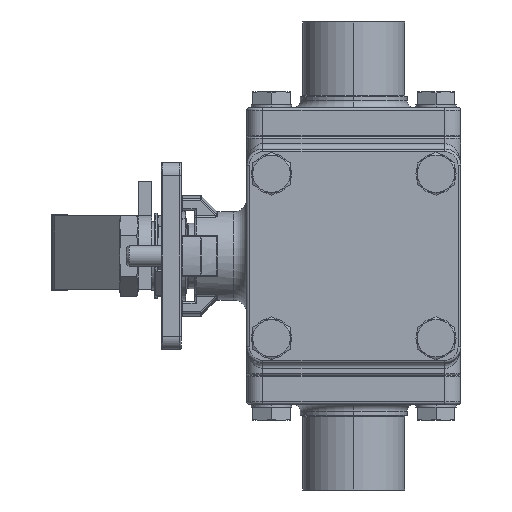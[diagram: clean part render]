
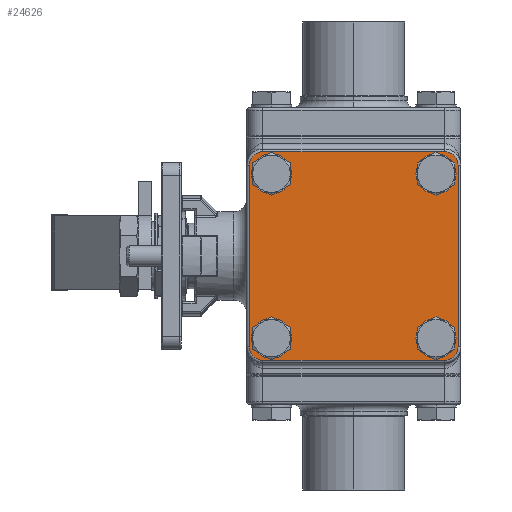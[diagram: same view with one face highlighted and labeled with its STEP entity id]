
A CAD part, left-side view. The second image highlights one B-rep face of the part: STEP entity #24626.
In plain terms, the highlighted planar face has unit normal (-1, 0, 0) as drawn and (0, 0, 1) by its records, which use the part's own axes.
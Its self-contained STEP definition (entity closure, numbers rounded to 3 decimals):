
#541 = ORIENTED_EDGE ( 'NONE', *, *, #13765, .T. ) ;
#645 = CARTESIAN_POINT ( 'NONE',  ( -30.759, 30.759, 7. ) ) ;
#659 = CIRCLE ( 'NONE', #28788, 5. ) ;
#718 = DIRECTION ( 'NONE',  ( 0., 1., 0. ) ) ;
#830 = EDGE_CURVE ( 'NONE', #17340, #6699, #3115, .T. ) ;
#1560 = DIRECTION ( 'NONE',  ( 0., 0., 1. ) ) ;
#1776 = CIRCLE ( 'NONE', #3183, 5.25 ) ;
#1832 = VECTOR ( 'NONE', #16577, 1000. ) ;
#1946 = AXIS2_PLACEMENT_3D ( 'NONE', #8028, #28888, #16011 ) ;
#2003 = EDGE_LOOP ( 'NONE', ( #11485, #30275 ) ) ;
#2096 = DIRECTION ( 'NONE',  ( 1., 0., 0. ) ) ;
#2162 = DIRECTION ( 'NONE',  ( 1., 0., 0. ) ) ;
#2630 = CIRCLE ( 'NONE', #3817, 5.25 ) ;
#2667 = ORIENTED_EDGE ( 'NONE', *, *, #20340, .F. ) ;
#2810 = EDGE_CURVE ( 'NONE', #23920, #23760, #11150, .T. ) ;
#2923 = VERTEX_POINT ( 'NONE', #26236 ) ;
#3042 = EDGE_CURVE ( 'NONE', #31790, #25386, #9510, .T. ) ;
#3115 = CIRCLE ( 'NONE', #6126, 5.25 ) ;
#3183 = AXIS2_PLACEMENT_3D ( 'NONE', #7492, #27701, #2096 ) ;
#3467 = DIRECTION ( 'NONE',  ( 0., 0., 1. ) ) ;
#3560 = CARTESIAN_POINT ( 'NONE',  ( -30.759, -30.759, 7. ) ) ;
#3817 = AXIS2_PLACEMENT_3D ( 'NONE', #32228, #3467, #26941 ) ;
#3825 = CARTESIAN_POINT ( 'NONE',  ( -39., -34., 7. ) ) ;
#4316 = FACE_BOUND ( 'NONE', #11940, .T. ) ;
#4375 = DIRECTION ( 'NONE',  ( 1., 0., 0. ) ) ;
#4439 = CARTESIAN_POINT ( 'NONE',  ( 30.759, 30.759, 7. ) ) ;
#5648 = LINE ( 'NONE', #8475, #19746 ) ;
#5837 = CARTESIAN_POINT ( 'NONE',  ( 34., -39., 7. ) ) ;
#6082 = EDGE_CURVE ( 'NONE', #22704, #10831, #11710, .T. ) ;
#6126 = AXIS2_PLACEMENT_3D ( 'NONE', #10149, #28202, #15303 ) ;
#6512 = CARTESIAN_POINT ( 'NONE',  ( -25.509, -30.759, 7. ) ) ;
#6675 = CARTESIAN_POINT ( 'NONE',  ( 25.509, -30.759, 7. ) ) ;
#6699 = VERTEX_POINT ( 'NONE', #32387 ) ;
#7492 = CARTESIAN_POINT ( 'NONE',  ( -30.759, -30.759, 7. ) ) ;
#7764 = CARTESIAN_POINT ( 'NONE',  ( -39., -34., 7. ) ) ;
#8028 = CARTESIAN_POINT ( 'NONE',  ( 34., -34., 7. ) ) ;
#8161 = ORIENTED_EDGE ( 'NONE', *, *, #830, .F. ) ;
#8454 = DIRECTION ( 'NONE',  ( 1., 0., 0. ) ) ;
#8475 = CARTESIAN_POINT ( 'NONE',  ( -34., 39., 7. ) ) ;
#8850 = EDGE_CURVE ( 'NONE', #24022, #21139, #22894, .T. ) ;
#9059 = DIRECTION ( 'NONE',  ( 0., 0., 1. ) ) ;
#9198 = FACE_BOUND ( 'NONE', #14148, .T. ) ;
#9436 = CARTESIAN_POINT ( 'NONE',  ( 39., -34., 7. ) ) ;
#9510 = LINE ( 'NONE', #32418, #11501 ) ;
#9592 = CARTESIAN_POINT ( 'NONE',  ( 30.759, -30.759, 7. ) ) ;
#9627 = AXIS2_PLACEMENT_3D ( 'NONE', #17872, #15492, #15259 ) ;
#9637 = EDGE_CURVE ( 'NONE', #23760, #13153, #24493, .T. ) ;
#10149 = CARTESIAN_POINT ( 'NONE',  ( 30.759, 30.759, 7. ) ) ;
#10831 = VERTEX_POINT ( 'NONE', #19509 ) ;
#10965 = CARTESIAN_POINT ( 'NONE',  ( 34., 39., 7. ) ) ;
#11150 = CIRCLE ( 'NONE', #9627, 5. ) ;
#11350 = EDGE_CURVE ( 'NONE', #21139, #24022, #2630, .T. ) ;
#11485 = ORIENTED_EDGE ( 'NONE', *, *, #11350, .F. ) ;
#11501 = VECTOR ( 'NONE', #718, 1000. ) ;
#11582 = EDGE_CURVE ( 'NONE', #13371, #26577, #1776, .T. ) ;
#11710 = CIRCLE ( 'NONE', #22230, 5.25 ) ;
#11940 = EDGE_LOOP ( 'NONE', ( #2667, #20082 ) ) ;
#11975 = DIRECTION ( 'NONE',  ( 0., 0., 1. ) ) ;
#12448 = DIRECTION ( 'NONE',  ( 0., 0., 1. ) ) ;
#12602 = ORIENTED_EDGE ( 'NONE', *, *, #6082, .F. ) ;
#12607 = DIRECTION ( 'NONE',  ( 0., 0., 1. ) ) ;
#12629 = CARTESIAN_POINT ( 'NONE',  ( -36.009, -30.759, 7. ) ) ;
#13153 = VERTEX_POINT ( 'NONE', #7764 ) ;
#13331 = CARTESIAN_POINT ( 'NONE',  ( -36.009, 30.759, 7. ) ) ;
#13371 = VERTEX_POINT ( 'NONE', #6512 ) ;
#13765 = EDGE_CURVE ( 'NONE', #22624, #23920, #5648, .T. ) ;
#14148 = EDGE_LOOP ( 'NONE', ( #12602, #24660 ) ) ;
#14367 = CIRCLE ( 'NONE', #14673, 5.25 ) ;
#14657 = VECTOR ( 'NONE', #8454, 1000. ) ;
#14673 = AXIS2_PLACEMENT_3D ( 'NONE', #29599, #9059, #2162 ) ;
#15259 = DIRECTION ( 'NONE',  ( 1., 0., 0. ) ) ;
#15303 = DIRECTION ( 'NONE',  ( 1., 0., 0. ) ) ;
#15400 = ORIENTED_EDGE ( 'NONE', *, *, #20593, .F. ) ;
#15492 = DIRECTION ( 'NONE',  ( 0., 0., 1. ) ) ;
#15800 = PLANE ( 'NONE',  #1946 ) ;
#15878 = CIRCLE ( 'NONE', #20285, 5.25 ) ;
#16011 = DIRECTION ( 'NONE',  ( 1., 0., 0. ) ) ;
#16039 = FACE_BOUND ( 'NONE', #2003, .T. ) ;
#16577 = DIRECTION ( 'NONE',  ( 0., -1., 0. ) ) ;
#16732 = CARTESIAN_POINT ( 'NONE',  ( -34., -34., 7. ) ) ;
#17093 = CIRCLE ( 'NONE', #22232, 5.25 ) ;
#17175 = ORIENTED_EDGE ( 'NONE', *, *, #25991, .T. ) ;
#17340 = VERTEX_POINT ( 'NONE', #26206 ) ;
#17872 = CARTESIAN_POINT ( 'NONE',  ( -34., 34., 7. ) ) ;
#18203 = VERTEX_POINT ( 'NONE', #25434 ) ;
#19509 = CARTESIAN_POINT ( 'NONE',  ( -25.509, 30.759, 7. ) ) ;
#19746 = VECTOR ( 'NONE', #23704, 1000. ) ;
#20082 = ORIENTED_EDGE ( 'NONE', *, *, #11582, .F. ) ;
#20285 = AXIS2_PLACEMENT_3D ( 'NONE', #3560, #21630, #29517 ) ;
#20340 = EDGE_CURVE ( 'NONE', #26577, #13371, #15878, .T. ) ;
#20345 = DIRECTION ( 'NONE',  ( 1., 0., 0. ) ) ;
#20593 = EDGE_CURVE ( 'NONE', #6699, #17340, #17093, .T. ) ;
#21139 = VERTEX_POINT ( 'NONE', #6675 ) ;
#21630 = DIRECTION ( 'NONE',  ( 0., 0., 1. ) ) ;
#22167 = DIRECTION ( 'NONE',  ( 1., 0., 0. ) ) ;
#22230 = AXIS2_PLACEMENT_3D ( 'NONE', #645, #1560, #32799 ) ;
#22232 = AXIS2_PLACEMENT_3D ( 'NONE', #4439, #12448, #20345 ) ;
#22624 = VERTEX_POINT ( 'NONE', #10965 ) ;
#22704 = VERTEX_POINT ( 'NONE', #13331 ) ;
#22894 = CIRCLE ( 'NONE', #28652, 5.25 ) ;
#23452 = ORIENTED_EDGE ( 'NONE', *, *, #24962, .T. ) ;
#23704 = DIRECTION ( 'NONE',  ( -1., 0., 0. ) ) ;
#23760 = VERTEX_POINT ( 'NONE', #24240 ) ;
#23920 = VERTEX_POINT ( 'NONE', #30067 ) ;
#24022 = VERTEX_POINT ( 'NONE', #25550 ) ;
#24240 = CARTESIAN_POINT ( 'NONE',  ( -39., 34., 7. ) ) ;
#24411 = EDGE_CURVE ( 'NONE', #10831, #22704, #14367, .T. ) ;
#24493 = LINE ( 'NONE', #3825, #1832 ) ;
#24626 = ADVANCED_FACE ( 'NONE', ( #30971, #4316, #25726, #16039, #9198 ), #15800, .T. ) ;
#24660 = ORIENTED_EDGE ( 'NONE', *, *, #24411, .F. ) ;
#24962 = EDGE_CURVE ( 'NONE', #18203, #31790, #659, .T. ) ;
#24969 = ORIENTED_EDGE ( 'NONE', *, *, #9637, .T. ) ;
#25026 = ORIENTED_EDGE ( 'NONE', *, *, #26140, .T. ) ;
#25139 = AXIS2_PLACEMENT_3D ( 'NONE', #25741, #28118, #28448 ) ;
#25386 = VERTEX_POINT ( 'NONE', #27772 ) ;
#25434 = CARTESIAN_POINT ( 'NONE',  ( 34., -39., 7. ) ) ;
#25491 = DIRECTION ( 'NONE',  ( 0., 0., 1. ) ) ;
#25550 = CARTESIAN_POINT ( 'NONE',  ( 36.009, -30.759, 7. ) ) ;
#25726 = FACE_BOUND ( 'NONE', #29851, .T. ) ;
#25741 = CARTESIAN_POINT ( 'NONE',  ( 34., 34., 7. ) ) ;
#25991 = EDGE_CURVE ( 'NONE', #13153, #2923, #30101, .T. ) ;
#26140 = EDGE_CURVE ( 'NONE', #25386, #22624, #32093, .T. ) ;
#26206 = CARTESIAN_POINT ( 'NONE',  ( 25.509, 30.759, 7. ) ) ;
#26236 = CARTESIAN_POINT ( 'NONE',  ( -34., -39., 7. ) ) ;
#26577 = VERTEX_POINT ( 'NONE', #12629 ) ;
#26941 = DIRECTION ( 'NONE',  ( 1., 0., 0. ) ) ;
#27621 = CARTESIAN_POINT ( 'NONE',  ( 34., -34., 7. ) ) ;
#27701 = DIRECTION ( 'NONE',  ( 0., 0., 1. ) ) ;
#27772 = CARTESIAN_POINT ( 'NONE',  ( 39., 34., 7. ) ) ;
#27809 = EDGE_CURVE ( 'NONE', #2923, #18203, #33215, .T. ) ;
#28118 = DIRECTION ( 'NONE',  ( 0., 0., 1. ) ) ;
#28202 = DIRECTION ( 'NONE',  ( 0., 0., 1. ) ) ;
#28448 = DIRECTION ( 'NONE',  ( 1., 0., 0. ) ) ;
#28652 = AXIS2_PLACEMENT_3D ( 'NONE', #9592, #25491, #32816 ) ;
#28788 = AXIS2_PLACEMENT_3D ( 'NONE', #27621, #12607, #4375 ) ;
#28888 = DIRECTION ( 'NONE',  ( 0., 0., 1. ) ) ;
#29517 = DIRECTION ( 'NONE',  ( 1., 0., 0. ) ) ;
#29599 = CARTESIAN_POINT ( 'NONE',  ( -30.759, 30.759, 7. ) ) ;
#29851 = EDGE_LOOP ( 'NONE', ( #8161, #15400 ) ) ;
#29875 = AXIS2_PLACEMENT_3D ( 'NONE', #16732, #11975, #22167 ) ;
#29888 = ORIENTED_EDGE ( 'NONE', *, *, #2810, .T. ) ;
#30067 = CARTESIAN_POINT ( 'NONE',  ( -34., 39., 7. ) ) ;
#30101 = CIRCLE ( 'NONE', #29875, 5. ) ;
#30161 = ORIENTED_EDGE ( 'NONE', *, *, #3042, .T. ) ;
#30275 = ORIENTED_EDGE ( 'NONE', *, *, #8850, .F. ) ;
#30316 = ORIENTED_EDGE ( 'NONE', *, *, #27809, .T. ) ;
#30971 = FACE_OUTER_BOUND ( 'NONE', #32257, .T. ) ;
#31790 = VERTEX_POINT ( 'NONE', #9436 ) ;
#32093 = CIRCLE ( 'NONE', #25139, 5. ) ;
#32228 = CARTESIAN_POINT ( 'NONE',  ( 30.759, -30.759, 7. ) ) ;
#32257 = EDGE_LOOP ( 'NONE', ( #30161, #25026, #541, #29888, #24969, #17175, #30316, #23452 ) ) ;
#32387 = CARTESIAN_POINT ( 'NONE',  ( 36.009, 30.759, 7. ) ) ;
#32418 = CARTESIAN_POINT ( 'NONE',  ( 39., 34., 7. ) ) ;
#32799 = DIRECTION ( 'NONE',  ( 1., 0., 0. ) ) ;
#32816 = DIRECTION ( 'NONE',  ( 1., 0., 0. ) ) ;
#33215 = LINE ( 'NONE', #5837, #14657 ) ;
